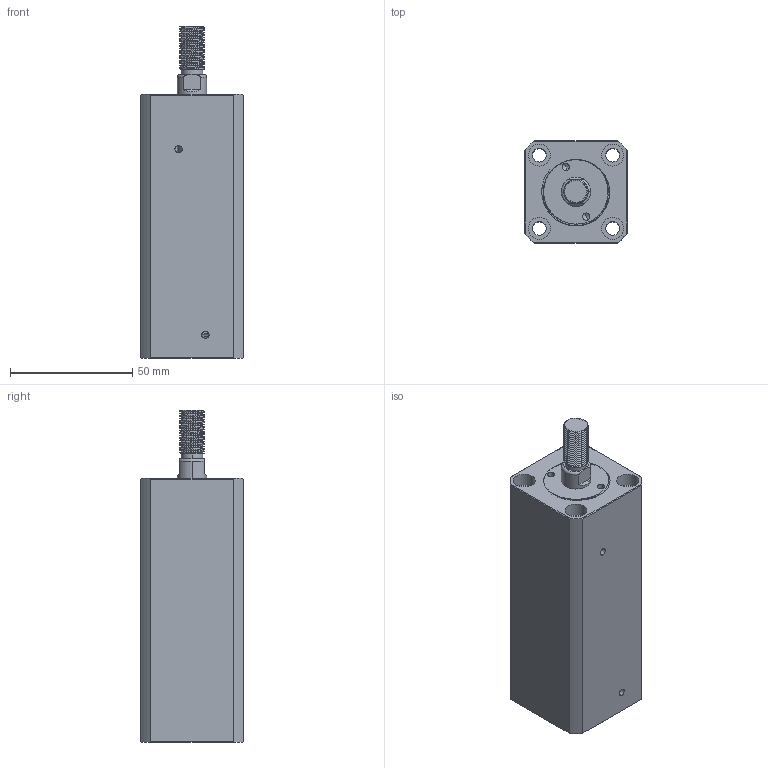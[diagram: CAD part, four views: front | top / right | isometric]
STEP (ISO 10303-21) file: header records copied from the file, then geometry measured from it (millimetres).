
FILE_DESCRIPTION (( 'STEP AP214' ), '1' );
FILE_NAME ('chtb-sdmb20x65w_asm.STEP', '2018-05-18T08:36:41', ( 'Windows' ), ( 'Microsoft' ), 'SwSTEP 2.0', 'SolidWorks 2015', '' );
FILE_SCHEMA (( 'AUTOMOTIVE_DESIGN' ));
Length unit declared in the file: millimetre
Products named in the file (4): QG_3; CHTB-SDMB20X65WHSG; CHTB-SDMB20X65NBT; chtb-sdmb20x65w_asm
Assembly tree (3 placements, depth 2):
  chtb-sdmb20x65w_asm
    CHTB-SDMB20X65NBT
    CHTB-SDMB20X65WHSG
    QG_3
Bounding box: 42 x 42 x 136 mm (x, y, z)
Volume: 162070.9 mm3; surface area: 46879.9 mm2
Topology: 3 solids, 3 shells, 243 faces, 660 edges, 439 vertices
Faces by surface type: cylinder 143, plane 47, torus 25, bspline 23, cone 5
Entity records: 14768 total; most frequent: CARTESIAN_POINT 8984, ORIENTED_EDGE 1312, DIRECTION 1058, EDGE_CURVE 656, VERTEX_POINT 439, AXIS2_PLACEMENT_3D 434, EDGE_LOOP 281, FACE_OUTER_BOUND 243
